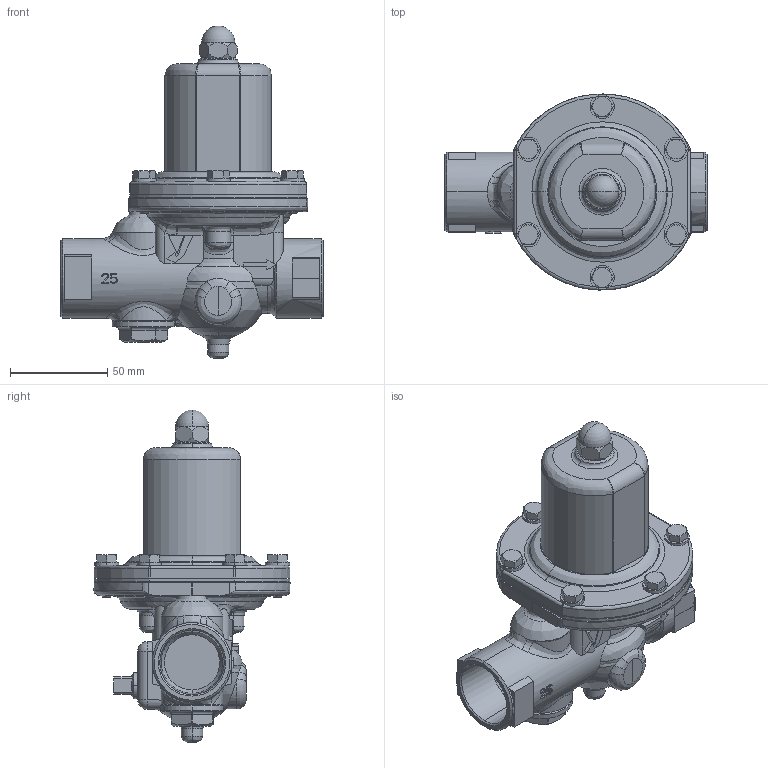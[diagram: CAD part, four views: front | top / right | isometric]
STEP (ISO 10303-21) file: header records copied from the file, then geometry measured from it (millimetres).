
FILE_DESCRIPTION( (''), '2;1');
FILE_NAME ('PC1276.13596.GD-28S-NE 25A_24073.stp','2025-06-10T15:51:42',(''),(''),'spGate 20.6.3 (****-****-****-****)','','');
FILE_SCHEMA (('AUTOMOTIVE_DESIGN'));
Length unit declared in the file: millimetre
Products named in the file (9): Assembly; ダイヤフラム20,25Ａ; ストレーナキャップ　3D　20A-2; プラグ3D; CP_''_JIS B 1183 六角袋ナット 3形 M''_705; CP_平座金(ミ''_JIS B 1256 みがき丸 6_740; 保護筒　3D; CP_''_JIS B 1180 呼び径六角ボルト''_17166; 弁箱25A　20K
Assembly tree (18 placements, depth 2):
  Assembly
    ダイヤフラム20,25Ａ
    ストレーナキャップ　3D　20A-2
    プラグ3D
    CP_''_JIS B 1183 六角袋ナット 3形 M''_705
    CP_平座金(ミ''_JIS B 1256 みがき丸 6_740  x6
    保護筒　3D
    CP_''_JIS B 1180 呼び径六角ボルト''_17166  x6
    弁箱25A　20K
Bounding box: 135 x 100.96 x 170.93 mm (x, y, z)
Volume: 451832.3 mm3; surface area: 103489.9 mm2
Topology: 18 solids, 18 shells, 654 faces, 1579 edges, 981 vertices
Faces by surface type: bspline 237, plane 212, cylinder 188, sphere 17
Entity records: 32568 total; most frequent: CARTESIAN_POINT 11983, ORIENTED_EDGE 2498, DIRECTION 1794, COLOUR_RGB 1761, PRESENTATION_STYLE_ASSIGNMENT 1761, STYLED_ITEM 1761, EDGE_CURVE 1249, DRAUGHTING_PRE_DEFINED_CURVE_FONT 1249
